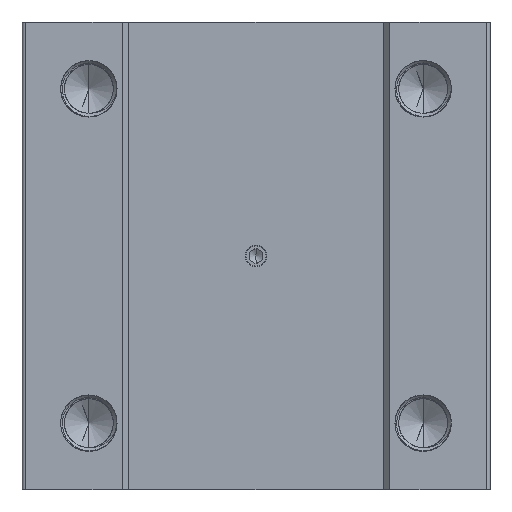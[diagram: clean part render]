
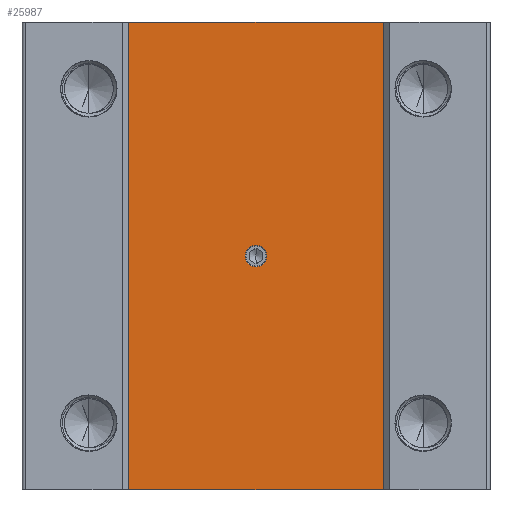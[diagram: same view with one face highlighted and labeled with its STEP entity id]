
A CAD part, front view. The second image highlights one B-rep face of the part: STEP entity #25987.
In plain terms, the highlighted planar face has unit normal (0, -1, 0).
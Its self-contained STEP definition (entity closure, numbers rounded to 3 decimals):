
#470 = CARTESIAN_POINT ( 'NONE',  ( -19., -32., 0. ) ) ;
#610 = VECTOR ( 'NONE', #17198, 1000. ) ;
#635 = CARTESIAN_POINT ( 'NONE',  ( 19., -32., 0. ) ) ;
#946 = LINE ( 'NONE', #12442, #610 ) ;
#1600 = VERTEX_POINT ( 'NONE', #21666 ) ;
#1723 = AXIS2_PLACEMENT_3D ( 'NONE', #11718, #9570, #19750 ) ;
#1826 = EDGE_LOOP ( 'NONE', ( #7003, #9844 ) ) ;
#3007 = LINE ( 'NONE', #470, #21200 ) ;
#3009 = DIRECTION ( 'NONE',  ( 0., 0., -1. ) ) ;
#3334 = EDGE_CURVE ( 'NONE', #1600, #22048, #946, .T. ) ;
#4739 = VECTOR ( 'NONE', #17267, 1000. ) ;
#4869 = EDGE_LOOP ( 'NONE', ( #16931, #21469, #19803, #25720 ) ) ;
#5133 = EDGE_CURVE ( 'NONE', #11702, #25282, #3007, .T. ) ;
#5142 = DIRECTION ( 'NONE',  ( 0., 0., -1. ) ) ;
#5753 = EDGE_CURVE ( 'NONE', #22048, #25282, #24977, .T. ) ;
#5755 = EDGE_CURVE ( 'NONE', #20392, #15028, #18515, .T. ) ;
#6962 = AXIS2_PLACEMENT_3D ( 'NONE', #23619, #17607, #5142 ) ;
#7003 = ORIENTED_EDGE ( 'NONE', *, *, #9910, .F. ) ;
#8311 = CIRCLE ( 'NONE', #23250, 1.6 ) ;
#9103 = CARTESIAN_POINT ( 'NONE',  ( -19., -32., 70. ) ) ;
#9570 = DIRECTION ( 'NONE',  ( 0., 1., 0. ) ) ;
#9844 = ORIENTED_EDGE ( 'NONE', *, *, #5755, .F. ) ;
#9910 = EDGE_CURVE ( 'NONE', #15028, #20392, #8311, .T. ) ;
#10009 = CARTESIAN_POINT ( 'NONE',  ( 0., -32., 33.4 ) ) ;
#11702 = VERTEX_POINT ( 'NONE', #15320 ) ;
#11718 = CARTESIAN_POINT ( 'NONE',  ( -19., -32., 70. ) ) ;
#12442 = CARTESIAN_POINT ( 'NONE',  ( -19., -32., 70. ) ) ;
#12681 = CARTESIAN_POINT ( 'NONE',  ( 0., -32., 36.6 ) ) ;
#12821 = CARTESIAN_POINT ( 'NONE',  ( 19., -32., 70. ) ) ;
#13459 = FACE_OUTER_BOUND ( 'NONE', #4869, .T. ) ;
#15028 = VERTEX_POINT ( 'NONE', #10009 ) ;
#15320 = CARTESIAN_POINT ( 'NONE',  ( -19., -32., 0. ) ) ;
#15375 = DIRECTION ( 'NONE',  ( 0., -1., 0. ) ) ;
#15733 = FACE_BOUND ( 'NONE', #1826, .T. ) ;
#16385 = VECTOR ( 'NONE', #20979, 1000. ) ;
#16931 = ORIENTED_EDGE ( 'NONE', *, *, #5133, .T. ) ;
#17109 = DIRECTION ( 'NONE',  ( 1., 0., 0. ) ) ;
#17198 = DIRECTION ( 'NONE',  ( 1., 0., 0. ) ) ;
#17267 = DIRECTION ( 'NONE',  ( 0., 0., -1. ) ) ;
#17607 = DIRECTION ( 'NONE',  ( 0., -1., 0. ) ) ;
#18515 = CIRCLE ( 'NONE', #6962, 1.6 ) ;
#19017 = CARTESIAN_POINT ( 'NONE',  ( 19., -32., 70. ) ) ;
#19281 = LINE ( 'NONE', #9103, #4739 ) ;
#19612 = PLANE ( 'NONE',  #1723 ) ;
#19750 = DIRECTION ( 'NONE',  ( -1., 0., 0. ) ) ;
#19803 = ORIENTED_EDGE ( 'NONE', *, *, #3334, .F. ) ;
#20392 = VERTEX_POINT ( 'NONE', #12681 ) ;
#20979 = DIRECTION ( 'NONE',  ( 0., 0., -1. ) ) ;
#21200 = VECTOR ( 'NONE', #17109, 1000. ) ;
#21396 = CARTESIAN_POINT ( 'NONE',  ( 0., -32., 35. ) ) ;
#21469 = ORIENTED_EDGE ( 'NONE', *, *, #5753, .F. ) ;
#21666 = CARTESIAN_POINT ( 'NONE',  ( -19., -32., 70. ) ) ;
#22048 = VERTEX_POINT ( 'NONE', #19017 ) ;
#23250 = AXIS2_PLACEMENT_3D ( 'NONE', #21396, #15375, #3009 ) ;
#23619 = CARTESIAN_POINT ( 'NONE',  ( 0., -32., 35. ) ) ;
#24977 = LINE ( 'NONE', #12821, #16385 ) ;
#25282 = VERTEX_POINT ( 'NONE', #635 ) ;
#25527 = EDGE_CURVE ( 'NONE', #1600, #11702, #19281, .T. ) ;
#25720 = ORIENTED_EDGE ( 'NONE', *, *, #25527, .T. ) ;
#25987 = ADVANCED_FACE ( 'NONE', ( #15733, #13459 ), #19612, .F. ) ;
